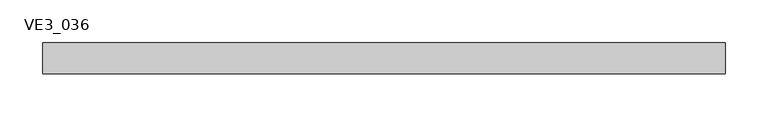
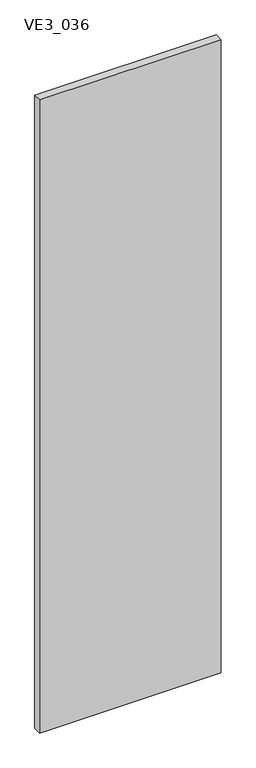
"""IFC4 building model written with IfcOpenShell, lengths in millimetres: plate geometry, TRP_CP_ARC_PF_RE_SE : VE3_036."""

import ifcopenshell
import ifcopenshell.guid

model = None  # the IFC model being written
_history = None  # IfcOwnerHistory: only IFC2X3 demands one
_inside = {}  # id of a spatial element -> (the spatial element, [elements in it])
_under = {}  # id of a project, library or spatial element -> (it, [spatial elements below it])
_declared = {}  # id of a project -> (the project, [libraries it declares])
_typed = {}  # id of a type object -> (the type object, [elements of that type])
_made_of = {}  # id of a material, layer set ... -> (it, [elements and type objects made of it])


def new_model(schema):
    """Start an empty IFC model of exactly this schema.

    Asked for "IFC4X3", IfcOpenShell would pick the latest addendum, in which some entities
    have other attributes; the version numbers below select the first issue.
    IFC2X3 requires an IfcOwnerHistory on every rooted entity: one is made here for all.
    """
    global model, _history
    if schema == "IFC4X3":
        model = ifcopenshell.file(schema_version=(4, 3, 0, 0))
    else:
        model = ifcopenshell.file(schema=schema)
    _inside.clear()
    _under.clear()
    _declared.clear()
    _typed.clear()
    _made_of.clear()
    _history = None
    if model.schema == "IFC2X3":
        org = make("IfcOrganization", Name="unknown")
        user = make(
            "IfcPersonAndOrganization",
            ThePerson=make("IfcPerson", FamilyName="unknown"),
            TheOrganization=org,
        )
        app = make(
            "IfcApplication",
            ApplicationDeveloper=org,
            Version="unknown",
            ApplicationFullName="unknown",
            ApplicationIdentifier="unknown",
        )
        _history = make(
            "IfcOwnerHistory",
            OwningUser=user,
            OwningApplication=app,
            ChangeAction="ADDED",
            CreationDate=0,
        )
    return model


def make(cls, **values):
    """One entity of the class cls with the attributes given. An attribute that is None is left unset."""
    return model.create_entity(
        cls, **{name: value for name, value in values.items() if value is not None}
    )


def rooted(cls, **values):
    """An entity with a GlobalId (a new one), such as an element, a storey or a relation."""
    return make(cls, GlobalId=ifcopenshell.guid.new(), OwnerHistory=_history, **values)


def si_unit(unit_type, name, prefix=None):
    """IfcSIUnit, for example si_unit("LENGTHUNIT", "METRE", prefix="MILLI")."""
    return make("IfcSIUnit", UnitType=unit_type, Prefix=prefix, Name=name)


def assignment(units):
    """IfcUnitAssignment: the units of a project."""
    return None if units is None else make("IfcUnitAssignment", Units=units)


def point(xyz):
    """IfcCartesianPoint."""
    return None if xyz is None else make("IfcCartesianPoint", Coordinates=xyz)


def direction(xyz):
    """IfcDirection."""
    return None if xyz is None else make("IfcDirection", DirectionRatios=xyz)


def frame(location, z_axis=None, x_axis=None):
    """IfcAxis2Placement3D, a coordinate frame: its origin and axes. An axis left out is left unset."""
    return make(
        "IfcAxis2Placement3D",
        Location=point(location),
        Axis=direction(z_axis),
        RefDirection=direction(x_axis),
    )


def origin():
    """The frame at (0, 0, 0) with its axes left unset."""
    return frame((0.0, 0.0, 0.0))


def place(relative_to, where):
    """IfcLocalPlacement: puts the frame where relative to a parent placement (None: the world)."""
    return make(
        "IfcLocalPlacement", PlacementRelTo=relative_to, RelativePlacement=where
    )


def context(
    kind, dimensions, precision=None, world=None, true_north=None, identifier=None
):
    """IfcGeometricRepresentationContext, for example the 3D "Model" context."""
    return make(
        "IfcGeometricRepresentationContext",
        ContextIdentifier=identifier,
        ContextType=kind,
        CoordinateSpaceDimension=dimensions,
        Precision=precision,
        WorldCoordinateSystem=world,
        TrueNorth=true_north,
    )


def project(units=None, contexts=None):
    """IfcProject with its units and contexts."""
    return rooted(
        "IfcProject",
        Name="project",
        RepresentationContexts=contexts,
        UnitsInContext=assignment(units),
    )


def spatial(cls, under=None, at=None, **own):
    """A site, building, storey or space (cls), placed at a placement, below another one or the project."""
    s = rooted(cls, ObjectPlacement=at, **own)
    if under is not None:
        _under.setdefault(under.id(), (under, []))[1].append(s)
    return s


def polyline(points):
    """IfcPolyline through the points."""
    return make("IfcPolyline", Points=[point(p) for p in points])


def outline(outer, holes=None, kind="AREA"):
    """IfcArbitraryClosedProfileDef: a profile drawn as a closed curve; with holes, ...WithVoids."""
    if holes is None:
        return make("IfcArbitraryClosedProfileDef", ProfileType=kind, OuterCurve=outer)
    return make(
        "IfcArbitraryProfileDefWithVoids",
        ProfileType=kind,
        OuterCurve=outer,
        InnerCurves=holes,
    )


def extrude(swept, where, along, depth):
    """IfcExtrudedAreaSolid: the profile swept, set in the frame where, extruded along a direction by depth."""
    return make(
        "IfcExtrudedAreaSolid",
        SweptArea=swept,
        Position=where,
        ExtrudedDirection=direction(along),
        Depth=depth,
    )


def shape(context_of_items, identifier, shape_type, items):
    """IfcShapeRepresentation: the items that make up one representation, for example the "Body"."""
    return make(
        "IfcShapeRepresentation",
        ContextOfItems=context_of_items,
        RepresentationIdentifier=identifier,
        RepresentationType=shape_type,
        Items=items,
    )


def source(mapping_origin, context_of_items, identifier, shape_type, items):
    """IfcRepresentationMap: a shape defined once, which mapped items show again and again."""
    return make(
        "IfcRepresentationMap",
        MappingOrigin=mapping_origin,
        MappedRepresentation=shape(context_of_items, identifier, shape_type, items),
    )


def transform(
    local_origin,
    x_axis=None,
    y_axis=None,
    z_axis=None,
    scale=None,
    scale2=None,
    scale3=None,
    uniform=True,
):
    """IfcCartesianTransformationOperator3D, or its non-uniform kind. x_axis, y_axis, z_axis: its Axis1, 2, 3."""
    if uniform:
        return make(
            "IfcCartesianTransformationOperator3D",
            Axis1=direction(x_axis),
            Axis2=direction(y_axis),
            LocalOrigin=point(local_origin),
            Scale=scale,
            Axis3=direction(z_axis),
        )
    return make(
        "IfcCartesianTransformationOperator3DnonUniform",
        Axis1=direction(x_axis),
        Axis2=direction(y_axis),
        LocalOrigin=point(local_origin),
        Scale=scale,
        Axis3=direction(z_axis),
        Scale2=scale2,
        Scale3=scale3,
    )


def mapped(mapping_source, mapping_target):
    """IfcMappedItem: shows the shape of a source again, moved by a transform."""
    return make(
        "IfcMappedItem", MappingSource=mapping_source, MappingTarget=mapping_target
    )


def made_of(thing, what):
    """Note that an element or type object is made of a material, layer set ...; save() writes the relation."""
    if what is not None:
        _made_of.setdefault(what.id(), (what, []))[1].append(thing)
    return thing


def element(
    cls,
    number,
    at=None,
    inside=None,
    cuts=None,
    type_object=None,
    material=None,
    context=None,
    identifier="Body",
    shape_type=None,
    held_by="IfcProductDefinitionShape",
    body=None,
    shapes=None,
    **own,
):
    """One element of the class cls, such as IfcWall. Its Tag is "e" and its number.

    at: its placement. inside: the storey or other place that contains it. cuts: it is an
    opening in that element (IfcRelVoidsElement). A single representation is given by context,
    identifier, shape_type and body (its items); several are given by shapes. held_by: the class
    of the entity that holds the representations. save() writes the other relations.
    """
    e = rooted(cls, Tag="e%d" % number, ObjectPlacement=at, **own)
    if body is not None:
        shapes = [shape(context, identifier, shape_type, body)]
    if shapes is not None:
        e.Representation = make(held_by, Representations=shapes)
    if inside is not None:
        _inside.setdefault(inside.id(), (inside, []))[1].append(e)
    if cuts is not None:
        rooted(
            "IfcRelVoidsElement", RelatingBuildingElement=cuts, RelatedOpeningElement=e
        )
    if type_object is not None:
        _typed.setdefault(type_object.id(), (type_object, []))[1].append(e)
    return made_of(e, material)


def aggregate(whole, parts):
    """IfcRelAggregates: a whole, such as a stair, and the parts it consists of."""
    return rooted("IfcRelAggregates", RelatingObject=whole, RelatedObjects=parts)


def save(model, path):
    """Write the relations noted so far, then the file.

    IfcRelAggregates (storeys below a building ...), IfcRelContainedInSpatialStructure (elements
    in a storey), IfcRelDefinesByType, IfcRelAssociatesMaterial and IfcRelDeclares: one each for
    every whole, place, type object, material and project.
    """
    for whole, parts in _under.values():
        aggregate(whole, parts)
    for where, things in _inside.values():
        rooted(
            "IfcRelContainedInSpatialStructure",
            RelatedElements=things,
            RelatingStructure=where,
        )
    for kind, things in _typed.values():
        rooted("IfcRelDefinesByType", RelatedObjects=things, RelatingType=kind)
    for what, things in _made_of.values():
        rooted("IfcRelAssociatesMaterial", RelatedObjects=things, RelatingMaterial=what)
    for by, libraries in _declared.values():
        rooted("IfcRelDeclares", RelatingContext=by, RelatedDefinitions=libraries)
    model.write(path)


def ve3_036_6c72086a(model_context):
    return source(origin(), model_context, "Body", "SweptSolid", [
        extrude(outline(polyline([(398.3509908, 18.0), (398.3509908, -18.0), (-398.3509908, -18.0), (-398.3509908, 18.0), (398.3509908, 18.0)])), frame((0.0, 0.0, -3.1739529), z_axis=(0.0, 0.0, 1.0), x_axis=(1.0, 0.0, 0.0)), (0.0, 0.0, 1.0), 2933.1739529),
    ])


if __name__ == "__main__":
    model = new_model("IFC4")
    model_context = context("Model", 3, world=origin())
    ifc_project = project(units=[si_unit("LENGTHUNIT", "METRE", prefix="MILLI")], contexts=[model_context])
    site = spatial("IfcSite", under=ifc_project)
    building = spatial("IfcBuilding", under=site)
    placement = place(None, origin())
    ve3_036_shape = ve3_036_6c72086a(model_context)
    element("IfcPlate", 1, ObjectType="TRP_CP_ARC_PF_RE_SE : VE3_036", at=placement, inside=building, context=model_context, shape_type="MappedRepresentation", body=[
        mapped(ve3_036_shape, transform((0.0, 0.0, 0.0), x_axis=(1.0, 0.0, 0.0), y_axis=(0.0, 1.0, 0.0), z_axis=(0.0, 0.0, 1.0))),
    ])
    save(model, "model.ifc")
